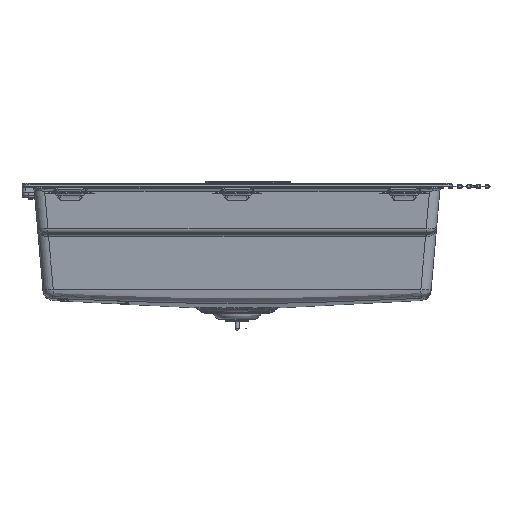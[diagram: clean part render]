
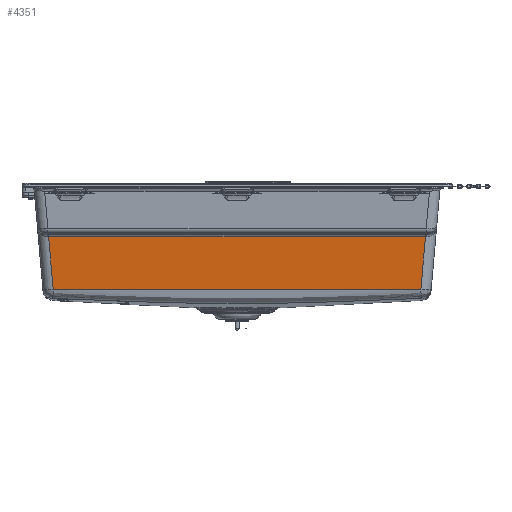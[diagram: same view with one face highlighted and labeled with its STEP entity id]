
A CAD part, front view. The second image highlights one B-rep face of the part: STEP entity #4351.
In plain terms, the highlighted planar face has unit normal (0, -0.996, -0.087).
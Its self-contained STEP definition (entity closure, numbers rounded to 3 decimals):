
#4351=ADVANCED_FACE('',(#10281),#101926,.T.);
#10281=FACE_OUTER_BOUND('',#16310,.T.);
#16310=EDGE_LOOP('',(#32351,#32352,#32353,#32354));
#32351=ORIENTED_EDGE('',*,*,#58965,.T.);
#32352=ORIENTED_EDGE('',*,*,#58973,.T.);
#32353=ORIENTED_EDGE('',*,*,#59097,.T.);
#32354=ORIENTED_EDGE('',*,*,#58969,.F.);
#58965=EDGE_CURVE('',#93598,#93595,#77723,.T.);
#58969=EDGE_CURVE('',#93598,#93602,#77724,.T.);
#58973=EDGE_CURVE('',#93595,#93604,#77727,.T.);
#59097=EDGE_CURVE('',#93604,#93602,#77773,.T.);
#77723=B_SPLINE_CURVE_WITH_KNOTS('',1,(#194962,#194963),.UNSPECIFIED.,.F.,
 .F.,(2,2),(-693.016,0.),.UNSPECIFIED.);
#77724=B_SPLINE_CURVE_WITH_KNOTS('',1,(#194973,#194974),.UNSPECIFIED.,.F.,
 .F.,(2,2),(0.,98.006),.UNSPECIFIED.);
#77727=B_SPLINE_CURVE_WITH_KNOTS('',1,(#194982,#194983),.UNSPECIFIED.,.F.,
 .F.,(2,2),(-98.006,0.),.UNSPECIFIED.);
#77773=B_SPLINE_CURVE_WITH_KNOTS('',3,(#195348,#195349,#195350,#195351,
#195352,#195353,#195354,#195355,#195356,#195357),.UNSPECIFIED.,.F.,.F.,
(4,1,1,1,1,1,1,4),(-676.33,-579.712,-483.093,
-386.474,-289.856,-193.237,-96.619,
0.),.UNSPECIFIED.);
#93595=VERTEX_POINT('',#187278);
#93598=VERTEX_POINT('',#187281);
#93602=VERTEX_POINT('',#187285);
#93604=VERTEX_POINT('',#187287);
#101926=PLANE('',#110871);
#110871=AXIS2_PLACEMENT_3D('',#181492,#121902,$);
#121902=DIRECTION('',(0.,-0.996,-0.087));
#181492=CARTESIAN_POINT('',(415.929,-216.981,-81.395));
#187278=CARTESIAN_POINT('',(-346.508,-216.035,-92.199));
#187281=CARTESIAN_POINT('',(346.508,-216.035,-92.199));
#187285=CARTESIAN_POINT('',(337.998,-207.526,-189.463));
#187287=CARTESIAN_POINT('',(-337.998,-207.526,-189.463));
#194962=CARTESIAN_POINT('',(346.508,-216.035,-92.199));
#194963=CARTESIAN_POINT('',(-346.508,-216.035,-92.199));
#194973=CARTESIAN_POINT('',(346.508,-216.035,-92.199));
#194974=CARTESIAN_POINT('',(337.998,-207.526,-189.463));
#194982=CARTESIAN_POINT('',(-346.508,-216.035,-92.199));
#194983=CARTESIAN_POINT('',(-337.998,-207.526,-189.463));
#195348=CARTESIAN_POINT('',(-337.998,-207.526,-189.463));
#195349=CARTESIAN_POINT('',(-305.823,-207.404,-190.859));
#195350=CARTESIAN_POINT('',(-241.468,-207.17,-193.531));
#195351=CARTESIAN_POINT('',(-144.909,-206.878,-196.867));
#195352=CARTESIAN_POINT('',(-48.311,-206.697,-198.942));
#195353=CARTESIAN_POINT('',(48.311,-206.697,-198.943));
#195354=CARTESIAN_POINT('',(144.909,-206.878,-196.867));
#195355=CARTESIAN_POINT('',(241.468,-207.17,-193.531));
#195356=CARTESIAN_POINT('',(305.823,-207.404,-190.859));
#195357=CARTESIAN_POINT('',(337.998,-207.526,-189.463));
